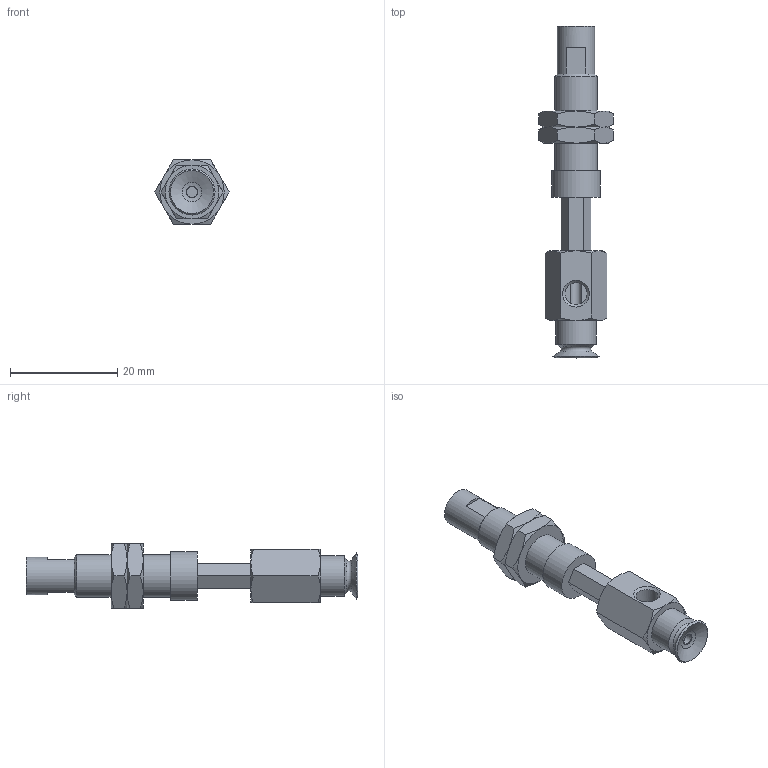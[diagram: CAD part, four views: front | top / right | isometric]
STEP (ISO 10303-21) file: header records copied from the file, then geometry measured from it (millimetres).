
FILE_DESCRIPTION(('STEP AP203'),'1');
FILE_NAME('.stp','2025-04-10T03:12:25',(' '),(' '),'Spatial InterOp 3D',' ',' ');
FILE_SCHEMA(('CONFIG_CONTROL_DESIGN'));
Length unit declared in the file: millimetre
Products named in the file (6): BNABPFYH-8A-10-※; CONNECTOR-H-8A-10; Nut-8A-10-h; NAPFTH-8A-10-FBODY; NAPFTH-8A-10-MBODY; BPFG-8A-※
Assembly tree (6 placements, depth 2):
  BNABPFYH-8A-10-※
    CONNECTOR-H-8A-10
    Nut-8A-10-h  x2
    NAPFTH-8A-10-FBODY
    NAPFTH-8A-10-MBODY
    BPFG-8A-※
Bounding box: 13.86 x 62 x 12 mm (x, y, z)
Volume: 3388.6 mm3; surface area: 4132.4 mm2
Topology: 6 solids, 6 shells, 139 faces, 302 edges, 183 vertices
Faces by surface type: plane 62, cone 51, cylinder 15, torus 10, bspline 1
Full cylindrical faces by diameter (mm): 2 x2, 4 x2, 4.134 x2, 5 x1, 6 x2, 7 x1, 7.188 x2, 7.5 x1, 8 x1, 9 x1
Entity records: 3467 total; most frequent: CARTESIAN_POINT 854, DIRECTION 478, ORIENTED_EDGE 418, EDGE_CURVE 209, AXIS2_PLACEMENT_3D 201, EDGE_LOOP 170, VERTEX_POINT 147, FACE_OUTER_BOUND 141
